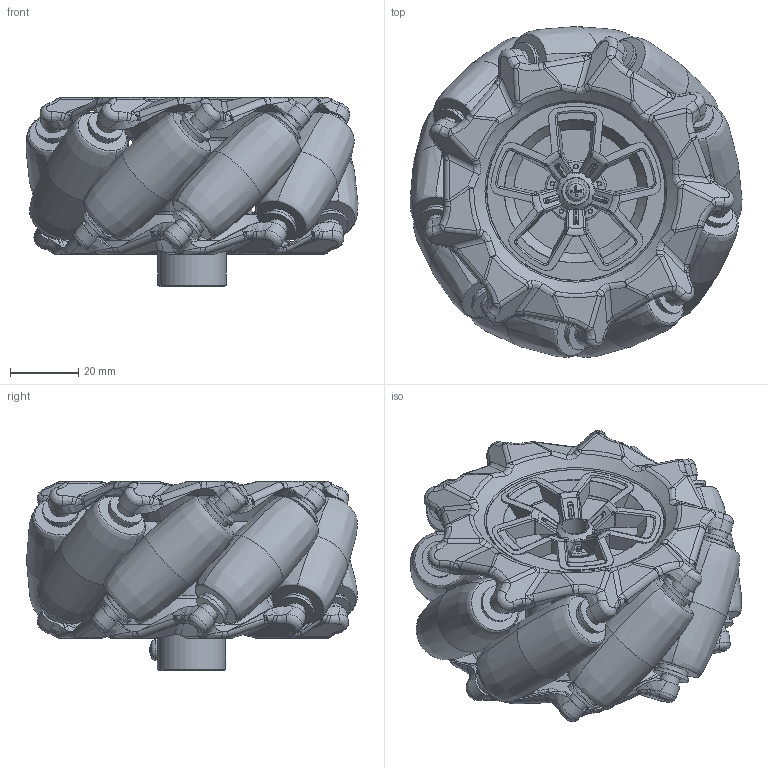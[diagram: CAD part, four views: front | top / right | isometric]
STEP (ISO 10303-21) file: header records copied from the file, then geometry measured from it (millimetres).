
FILE_DESCRIPTION(/* description */ (''),/* implementation_level */ '2;1');
FILE_NAME(/* name */ 'Assieme_ruota_mozzo.stp',/* time_stamp */ '2025-05-26T14:57:20+02:00',/* author */ ('R5800u'),/* organization */ (''),/* preprocessor_version */ 'ST-DEVELOPER v20',/* originating_system */ 'Autodesk Inventor 2025',/* authorisation */ '');
FILE_SCHEMA (('AUTOMOTIVE_DESIGN { 1 0 10303 214 3 1 1 }'));
Products named in the file (6): Assieme_ruota_mozzo; Mecanum wheel - left; albero_ottonre_12x6; dado_quadro_M3; AS 1427 - M3 x 8; AS 1427 - M3 x 30
Assembly tree (6 placements, depth 2):
  Assieme_ruota_mozzo
    Mecanum wheel - left
    albero_ottonre_12x6
    dado_quadro_M3  x2
    AS 1427 - M3 x 8
    AS 1427 - M3 x 30
Bounding box: 97.3 x 97 x 55.4 mm (x, y, z)
Volume: 138376.1 mm3; surface area: 72769.5 mm2
Topology: 17 solids, 17 shells, 2456 faces, 6174 edges, 3560 vertices
Faces by surface type: plane 765, bspline 753, cylinder 563, sphere 166, torus 140, cone 69
Full cylindrical faces by diameter (mm): 1.35 x5, 2.693 x2, 3 x4, 3.2 x2, 3.4 x2, 3.75 x5, 4.5 x1, 5.15 x5, 5.25 x18, 5.75 x36, 7.5 x10, 7.9 x2, 9 x18, 10.55 x18, 20 x3
Entity records: 138067 total; most frequent: CARTESIAN_POINT 84919, ORIENTED_EDGE 11822, DIRECTION 10238, EDGE_CURVE 5911, AXIS2_PLACEMENT_3D 4308, VERTEX_POINT 3542, EDGE_LOOP 2561, FACE_OUTER_BOUND 2445
